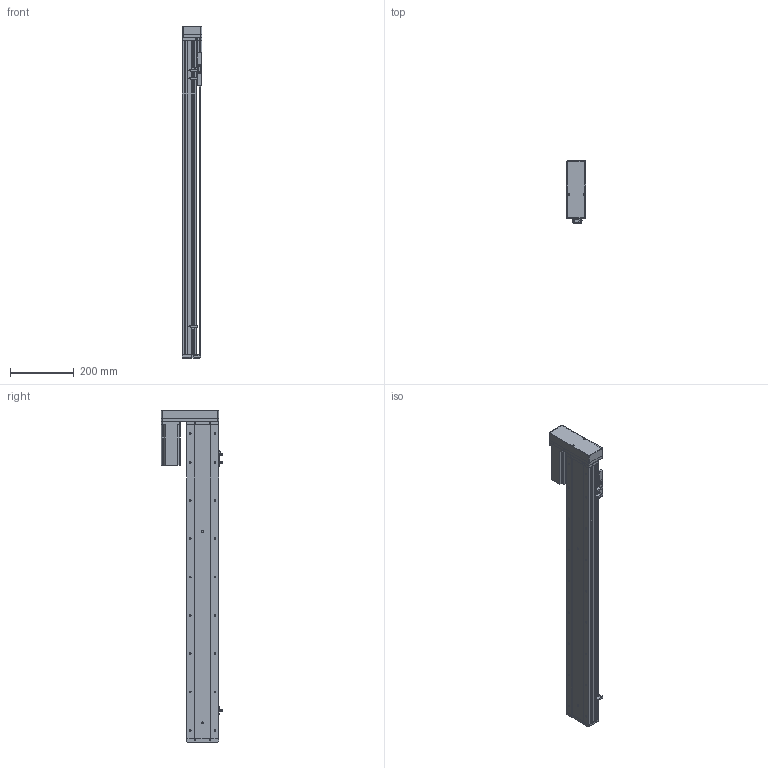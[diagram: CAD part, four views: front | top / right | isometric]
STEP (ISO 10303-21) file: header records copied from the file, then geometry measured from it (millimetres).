
FILE_DESCRIPTION (( 'STEP AP214' ), '1' );
FILE_NAME ('KSD100S-S800-ML-CM.STEP', '2019-08-30T06:29:17', ( '微软用户' ), ( '微软中国' ), 'SwSTEP 2.0', 'SolidWorks 2014', '' );
FILE_SCHEMA (( 'AUTOMOTIVE_DESIGN' ));
Length unit declared in the file: millimetre
Products named in the file (11): 悵誘欶酘衵殏; 台达ECMA－C20604AS伺服电机; 100宽马达安装板连板左右折丝杆; U倰嫖萇EEㄜSX672; 覜茼え100遵圉猾敕; 100宽防尘板丝杆800行程; 100遵鎮湛假蚾啣; 100宽滚珠螺姆安装板半封闭; 100遵傷啣; 100宽底板半封闭丝杆800行程; KSD100S-S800-ML-CM
Assembly tree (12 placements, depth 2):
  KSD100S-S800-ML-CM
    100宽底板半封闭丝杆800行程
    100遵傷啣
    100宽滚珠螺姆安装板半封闭
    100遵鎮湛假蚾啣
    100宽防尘板丝杆800行程
    覜茼え100遵圉猾敕
    U倰嫖萇EEㄜSX672  x3
    100宽马达安装板连板左右折丝杆
    台达ECMA－C20604AS伺服电机
    悵誘欶酘衵殏
Bounding box: 62 x 193.7 x 1040.5 mm (x, y, z)
Volume: 2526195.6 mm3; surface area: 819318.1 mm2
Topology: 13 solids, 13 shells, 1309 faces, 3692 edges, 2331 vertices
Faces by surface type: cylinder 650, plane 512, cone 147
Entity records: 45889 total; most frequent: CARTESIAN_POINT 9093, DIRECTION 6235, ORIENTED_EDGE 5996, EDGE_CURVE 2998, AXIS2_PLACEMENT_3D 2277, VERTEX_POINT 1955, LINE 1681, VECTOR 1681
